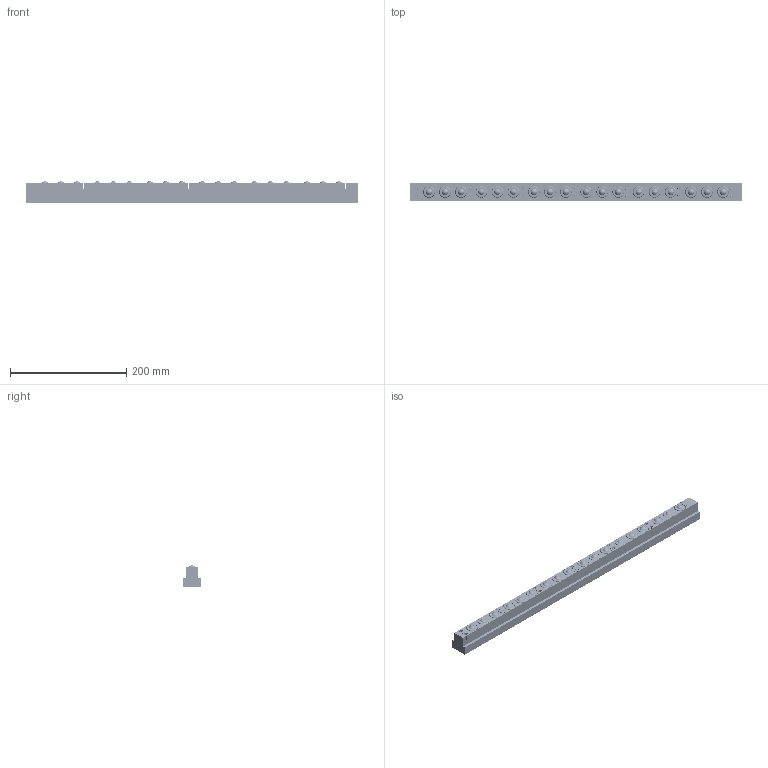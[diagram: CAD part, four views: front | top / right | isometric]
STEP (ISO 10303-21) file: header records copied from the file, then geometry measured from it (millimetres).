
FILE_DESCRIPTION(/* description */ (''),/* implementation_level */ '2;1');
FILE_NAME(/* name */ 'Z:\34-Tei\01-web 3Dデータ\44-ISR-22T\X2\578B\X0\\ISR-22T-570.stp',/* time_stamp */ '2015-01-16T11:15:04+09:00',/* author */ ('yamaki'),/* organization */ (''),/* preprocessor_version */ 'ST-DEVELOPER v15.6',/* originating_system */ 'Autodesk Inventor 2015',/* authorisation */ '');
FILE_SCHEMA (('AUTOMOTIVE_DESIGN { 1 0 10303 214 3 1 1 }'));
Length unit declared in the file: millimetre
Products named in the file (9): 4A03SL; JIS B 1176 - M3 x 10; A213AA; 4A03PS; JIS B 1111 - Csunk M4 x 8 - H; 4A03BA-06; 4A03TB; 4A03CB; 4A03AA
Bounding box: 570 x 30 x 36.96 mm (x, y, z)
Volume: 396692.8 mm3; surface area: 241255.4 mm2
Topology: 111 solids, 111 shells, 2929 faces, 7085 edges, 4504 vertices
Faces by surface type: plane 1056, cone 830, cylinder 627, torus 398, sphere 18
Full cylindrical faces by diameter (mm): 2 x13, 2.459 x14, 2.5 x12, 3 x14, 3.242 x52, 3.5 x14, 3.571 x52, 4 x52, 4.5 x52, 5.5 x14, 6 x18, 6.1 x18, 6.2 x7, 8.4 x52, 8.566 x1, 13 x18, 16.5 x18, 19 x18, 19.9 x18, 20 x54, 23.8 x36, 24 x18
Entity records: 9704 total; most frequent: DIRECTION 1744, CARTESIAN_POINT 1712, ORIENTED_EDGE 1204, AXIS2_PLACEMENT_3D 748, EDGE_CURVE 602, EDGE_LOOP 596, VERTEX_POINT 456, FACE_OUTER_BOUND 316
